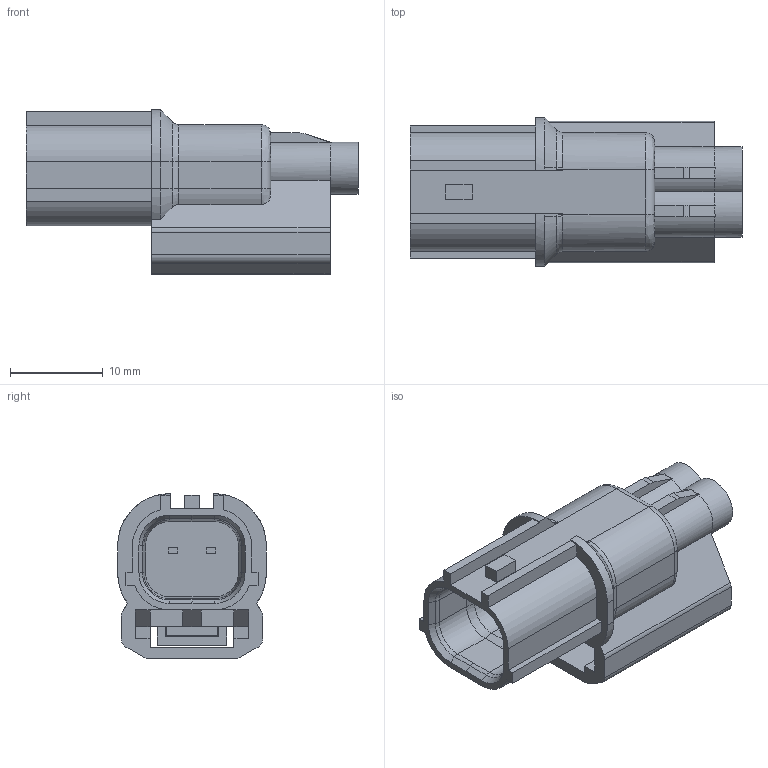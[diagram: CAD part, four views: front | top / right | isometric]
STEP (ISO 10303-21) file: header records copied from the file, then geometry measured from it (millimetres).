
FILE_DESCRIPTION(('CATIA V5 STEP Exchange'),'2;1');
FILE_NAME('N:\C-DAM_MyDesk\ENV\900093\6188-0590.stp','2013-05-20T05:50:05+00:00',('none'),('none'),'CATIA Version 5 Release 20 SP 4 (IN-10)','CATIA V5 STEP AP203','none');
FILE_SCHEMA(('CONFIG_CONTROL_DESIGN'));
Length unit declared in the file: millimetre
Products named in the file (1): 6188-0590
Bounding box: 35.7 x 16 x 17.7 mm (x, y, z)
Volume: 3776.8 mm3; surface area: 3742.3 mm2
Topology: 1 solids, 1 shells, 224 faces, 597 edges, 379 vertices
Faces by surface type: plane 121, cylinder 49, bspline 42, cone 12
Entity records: 8543 total; most frequent: CARTESIAN_POINT 3491, ORIENTED_EDGE 1194, DIRECTION 753, EDGE_CURVE 597, VECTOR 379, LINE 379, VERTEX_POINT 379, EDGE_LOOP 232
